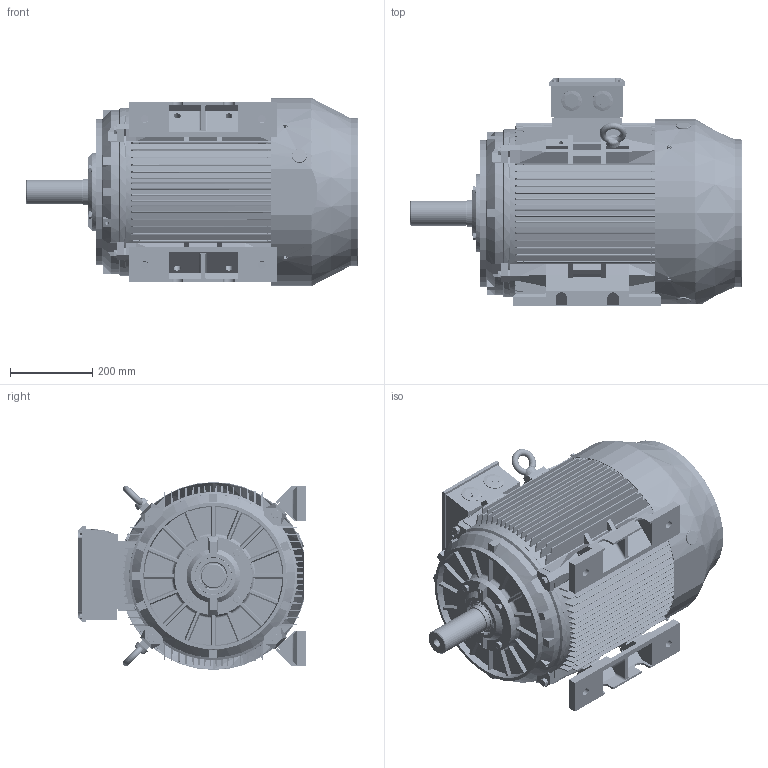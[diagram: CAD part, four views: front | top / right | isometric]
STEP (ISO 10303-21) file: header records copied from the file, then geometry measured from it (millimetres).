
FILE_DESCRIPTION (( 'STEP AP214' ), '1' );
FILE_NAME ('BCT4185.22A803.11.step', '2020-04-23T15:46:31', ( '' ), ( '' ), 'SwSTEP 2.0', 'SolidWorks 2019', '' );
FILE_SCHEMA (( 'AUTOMOTIVE_DESIGN' ));
Length unit declared in the file: millimetre
Products named in the file (1): BCT4185.22A803.11
Bounding box: 809.52 x 553.97 x 458.4 mm (x, y, z)
Volume: 20733489.8 mm3; surface area: 5073274.9 mm2
Topology: 53 solids, 54 shells, 8143 faces, 23520 edges, 15420 vertices
Faces by surface type: plane 4026, cylinder 3111, cone 422, torus 334, sphere 128, bspline 122
Entity records: 301337 total; most frequent: CARTESIAN_POINT 83363, ORIENTED_EDGE 46620, DIRECTION 44428, EDGE_CURVE 23310, AXIS2_PLACEMENT_3D 15475, VERTEX_POINT 15356, LINE 13478, VECTOR 13478
